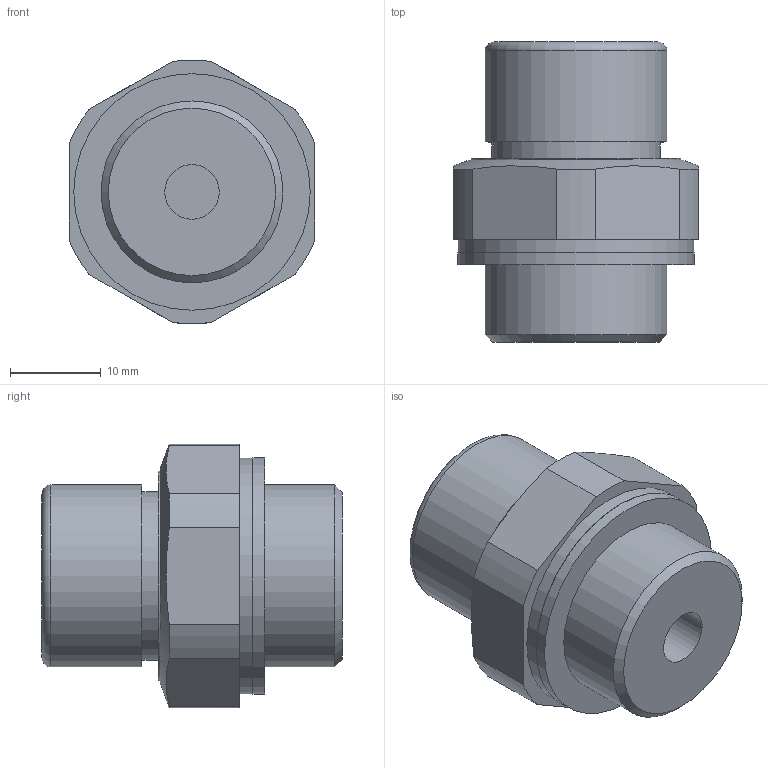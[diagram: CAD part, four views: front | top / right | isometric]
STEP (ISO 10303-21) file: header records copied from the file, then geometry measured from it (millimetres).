
FILE_DESCRIPTION( ( 'STEP AP203' ), '1' );
FILE_NAME( 'C:/Temp/Ganter_Step_05_03_2020/data/3_5/gn881/Breather valve GN 881-M20x1,5-200-MS-M.stp', '2020-03-12T13:42:37', ( 'License CC BY-ND 4.0' ), ( 'CADENAS' ), ' ', 'PARTsolutions', ' ' );
FILE_SCHEMA( ( 'CONFIG_CONTROL_DESIGN' ) );
Length unit declared in the file: millimetre
Products named in the file (1): _Breather valve GN 881-M20x1,5-200-MS-M
Bounding box: 27 x 33 x 28.98 mm (x, y, z)
Volume: 13004.1 mm3; surface area: 3875.6 mm2
Topology: 1 solids, 1 shells, 33 faces, 67 edges, 44 vertices
Faces by surface type: plane 16, cylinder 14, cone 2, torus 1
Full cylindrical faces by diameter (mm): 6 x1, 18.5 x1, 19 x1, 20 x2, 23 x1, 25.9 x1, 26 x1
Entity records: 870 total; most frequent: CARTESIAN_POINT 158, DIRECTION 148, ORIENTED_EDGE 110, AXIS2_PLACEMENT_3D 65, EDGE_CURVE 55, EDGE_LOOP 52, VERTEX_POINT 43, FACE_OUTER_BOUND 42
